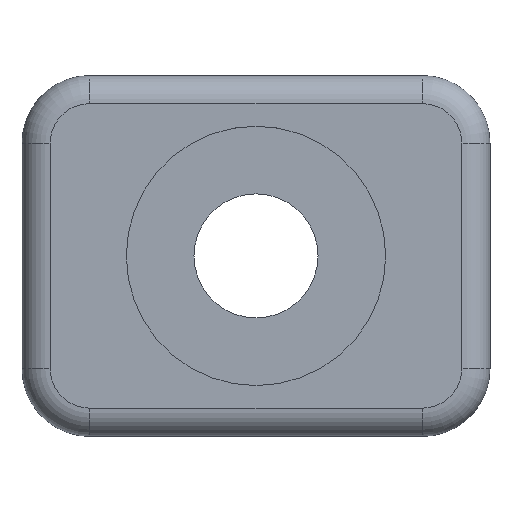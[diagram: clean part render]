
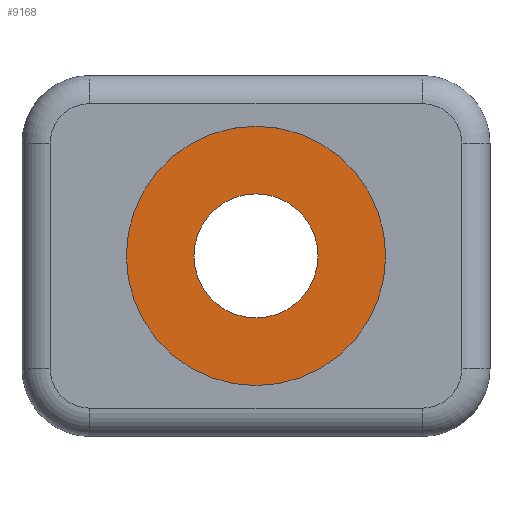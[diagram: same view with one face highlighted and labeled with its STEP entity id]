
A CAD part, top view. The second image highlights one B-rep face of the part: STEP entity #9168.
In plain terms, the highlighted planar face has unit normal (0, 0, 1).
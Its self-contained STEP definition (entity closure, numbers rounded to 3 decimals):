
#1513 = CYLINDRICAL_SURFACE('',#1514,46.);
#1514 = AXIS2_PLACEMENT_3D('',#1515,#1516,#1517);
#1515 = CARTESIAN_POINT('',(0.,0.,40.));
#1516 = DIRECTION('',(0.,0.,1.));
#1517 = DIRECTION('',(1.,0.,-0.));
#6276 = VERTEX_POINT('',#6277);
#6277 = CARTESIAN_POINT('',(46.,0.,40.));
#6298 = EDGE_CURVE('',#6276,#6276,#6299,.T.);
#6299 = SURFACE_CURVE('',#6300,(#6305,#6312),.PCURVE_S1.);
#6300 = CIRCLE('',#6301,46.);
#6301 = AXIS2_PLACEMENT_3D('',#6302,#6303,#6304);
#6302 = CARTESIAN_POINT('',(0.,0.,40.));
#6303 = DIRECTION('',(0.,0.,1.));
#6304 = DIRECTION('',(1.,0.,-0.));
#6305 = PCURVE('',#1513,#6306);
#6306 = DEFINITIONAL_REPRESENTATION('',(#6307),#6311);
#6307 = LINE('',#6308,#6309);
#6308 = CARTESIAN_POINT('',(0.,0.));
#6309 = VECTOR('',#6310,1.);
#6310 = DIRECTION('',(1.,0.));
#6311 = ( GEOMETRIC_REPRESENTATION_CONTEXT(2) 
PARAMETRIC_REPRESENTATION_CONTEXT() REPRESENTATION_CONTEXT('2D SPACE',''
  ) );
#6312 = PCURVE('',#6313,#6318);
#6313 = PLANE('',#6314);
#6314 = AXIS2_PLACEMENT_3D('',#6315,#6316,#6317);
#6315 = CARTESIAN_POINT('',(0.,0.,40.));
#6316 = DIRECTION('',(0.,0.,1.));
#6317 = DIRECTION('',(1.,0.,-0.));
#6318 = DEFINITIONAL_REPRESENTATION('',(#6319),#6323);
#6319 = CIRCLE('',#6320,46.);
#6320 = AXIS2_PLACEMENT_2D('',#6321,#6322);
#6321 = CARTESIAN_POINT('',(0.,0.));
#6322 = DIRECTION('',(1.,0.));
#6323 = ( GEOMETRIC_REPRESENTATION_CONTEXT(2) 
PARAMETRIC_REPRESENTATION_CONTEXT() REPRESENTATION_CONTEXT('2D SPACE',''
  ) );
#9168 = ADVANCED_FACE('',(#9169,#9172),#6313,.T.);
#9169 = FACE_BOUND('',#9170,.T.);
#9170 = EDGE_LOOP('',(#9171));
#9171 = ORIENTED_EDGE('',*,*,#6298,.T.);
#9172 = FACE_BOUND('',#9173,.T.);
#9173 = EDGE_LOOP('',(#9174));
#9174 = ORIENTED_EDGE('',*,*,#9175,.F.);
#9175 = EDGE_CURVE('',#9176,#9176,#9178,.T.);
#9176 = VERTEX_POINT('',#9177);
#9177 = CARTESIAN_POINT('',(22.,0.,40.));
#9178 = SURFACE_CURVE('',#9179,(#9184,#9191),.PCURVE_S1.);
#9179 = CIRCLE('',#9180,22.);
#9180 = AXIS2_PLACEMENT_3D('',#9181,#9182,#9183);
#9181 = CARTESIAN_POINT('',(0.,0.,40.));
#9182 = DIRECTION('',(0.,0.,1.));
#9183 = DIRECTION('',(1.,0.,-0.));
#9184 = PCURVE('',#6313,#9185);
#9185 = DEFINITIONAL_REPRESENTATION('',(#9186),#9190);
#9186 = CIRCLE('',#9187,22.);
#9187 = AXIS2_PLACEMENT_2D('',#9188,#9189);
#9188 = CARTESIAN_POINT('',(0.,0.));
#9189 = DIRECTION('',(1.,0.));
#9190 = ( GEOMETRIC_REPRESENTATION_CONTEXT(2) 
PARAMETRIC_REPRESENTATION_CONTEXT() REPRESENTATION_CONTEXT('2D SPACE',''
  ) );
#9191 = PCURVE('',#9192,#9197);
#9192 = CYLINDRICAL_SURFACE('',#9193,22.);
#9193 = AXIS2_PLACEMENT_3D('',#9194,#9195,#9196);
#9194 = CARTESIAN_POINT('',(0.,0.,22.));
#9195 = DIRECTION('',(0.,0.,1.));
#9196 = DIRECTION('',(1.,0.,-0.));
#9197 = DEFINITIONAL_REPRESENTATION('',(#9198),#9202);
#9198 = LINE('',#9199,#9200);
#9199 = CARTESIAN_POINT('',(0.,18.));
#9200 = VECTOR('',#9201,1.);
#9201 = DIRECTION('',(1.,0.));
#9202 = ( GEOMETRIC_REPRESENTATION_CONTEXT(2) 
PARAMETRIC_REPRESENTATION_CONTEXT() REPRESENTATION_CONTEXT('2D SPACE',''
  ) );
